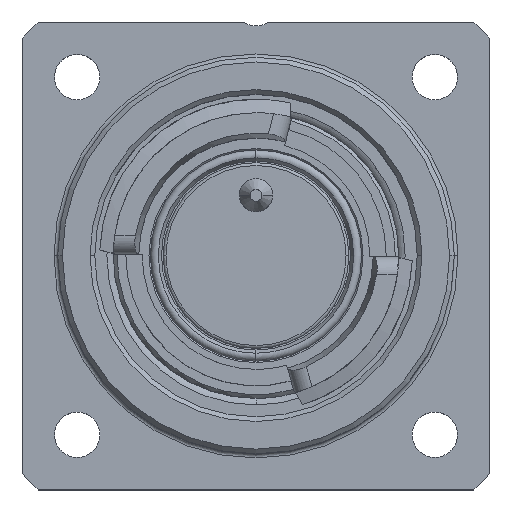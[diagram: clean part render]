
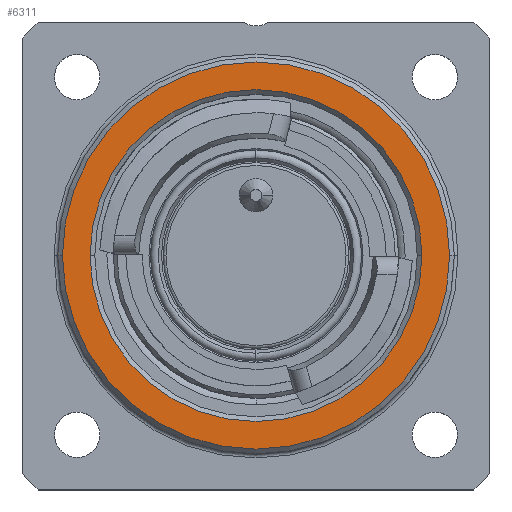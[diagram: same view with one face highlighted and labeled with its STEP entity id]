
A CAD part, top view. The second image highlights one B-rep face of the part: STEP entity #6311.
In plain terms, the highlighted planar face has unit normal (0, 0, 1).
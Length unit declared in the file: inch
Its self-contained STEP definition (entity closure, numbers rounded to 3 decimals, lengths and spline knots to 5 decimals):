
#230 = DIRECTION ( 'NONE',  ( -1., 0., 0. ) ) ;
#255 = PLANE ( 'NONE',  #8870 ) ;
#307 = AXIS2_PLACEMENT_3D ( 'NONE', #6368, #9321, #6412 ) ;
#585 = EDGE_LOOP ( 'NONE', ( #5684, #8949 ) ) ;
#676 = CARTESIAN_POINT ( 'NONE',  ( 0., 0., -0.19291 ) ) ;
#730 = CARTESIAN_POINT ( 'NONE',  ( -0.35252, 0., -0.19291 ) ) ;
#1325 = CARTESIAN_POINT ( 'NONE',  ( 0., 0., -0.19291 ) ) ;
#1405 = DIRECTION ( 'NONE',  ( -1., 0., 0. ) ) ;
#1759 = AXIS2_PLACEMENT_3D ( 'NONE', #4517, #3203, #230 ) ;
#1842 = VERTEX_POINT ( 'NONE', #4596 ) ;
#2345 = FACE_BOUND ( 'NONE', #585, .T. ) ;
#2419 = EDGE_CURVE ( 'NONE', #1842, #3878, #6428, .T. ) ;
#2580 = CIRCLE ( 'NONE', #6792, 0.35252 ) ;
#2794 = VERTEX_POINT ( 'NONE', #730 ) ;
#2833 = CARTESIAN_POINT ( 'NONE',  ( 0.35252, 0., -0.19291 ) ) ;
#3095 = EDGE_LOOP ( 'NONE', ( #5530, #4720 ) ) ;
#3203 = DIRECTION ( 'NONE',  ( 0., 0., 1. ) ) ;
#3878 = VERTEX_POINT ( 'NONE', #3995 ) ;
#3995 = CARTESIAN_POINT ( 'NONE',  ( 0.41126, 0., -0.19291 ) ) ;
#4170 = AXIS2_PLACEMENT_3D ( 'NONE', #676, #7787, #1405 ) ;
#4515 = CIRCLE ( 'NONE', #307, 0.41126 ) ;
#4516 = EDGE_CURVE ( 'NONE', #5129, #2794, #7044, .T. ) ;
#4517 = CARTESIAN_POINT ( 'NONE',  ( 0., 0., -0.19291 ) ) ;
#4596 = CARTESIAN_POINT ( 'NONE',  ( -0.41126, 0., -0.19291 ) ) ;
#4720 = ORIENTED_EDGE ( 'NONE', *, *, #8743, .T. ) ;
#5025 = DIRECTION ( 'NONE',  ( 0., 0., -1. ) ) ;
#5068 = CARTESIAN_POINT ( 'NONE',  ( 0., 0.42126, -0.19291 ) ) ;
#5129 = VERTEX_POINT ( 'NONE', #2833 ) ;
#5205 = DIRECTION ( 'NONE',  ( 0., 0., -1. ) ) ;
#5530 = ORIENTED_EDGE ( 'NONE', *, *, #2419, .T. ) ;
#5684 = ORIENTED_EDGE ( 'NONE', *, *, #4516, .T. ) ;
#6311 = ADVANCED_FACE ( 'NONE', ( #2345, #8635 ), #255, .F. ) ;
#6368 = CARTESIAN_POINT ( 'NONE',  ( 0., 0., -0.19291 ) ) ;
#6412 = DIRECTION ( 'NONE',  ( -1., 0., 0. ) ) ;
#6428 = CIRCLE ( 'NONE', #1759, 0.41126 ) ;
#6792 = AXIS2_PLACEMENT_3D ( 'NONE', #1325, #5025, #9229 ) ;
#7044 = CIRCLE ( 'NONE', #4170, 0.35252 ) ;
#7787 = DIRECTION ( 'NONE',  ( 0., 0., -1. ) ) ;
#8067 = DIRECTION ( 'NONE',  ( -1., 0., 0. ) ) ;
#8635 = FACE_OUTER_BOUND ( 'NONE', #3095, .T. ) ;
#8743 = EDGE_CURVE ( 'NONE', #3878, #1842, #4515, .T. ) ;
#8747 = EDGE_CURVE ( 'NONE', #2794, #5129, #2580, .T. ) ;
#8870 = AXIS2_PLACEMENT_3D ( 'NONE', #5068, #5205, #8067 ) ;
#8949 = ORIENTED_EDGE ( 'NONE', *, *, #8747, .T. ) ;
#9229 = DIRECTION ( 'NONE',  ( -1., 0., 0. ) ) ;
#9321 = DIRECTION ( 'NONE',  ( 0., 0., 1. ) ) ;
